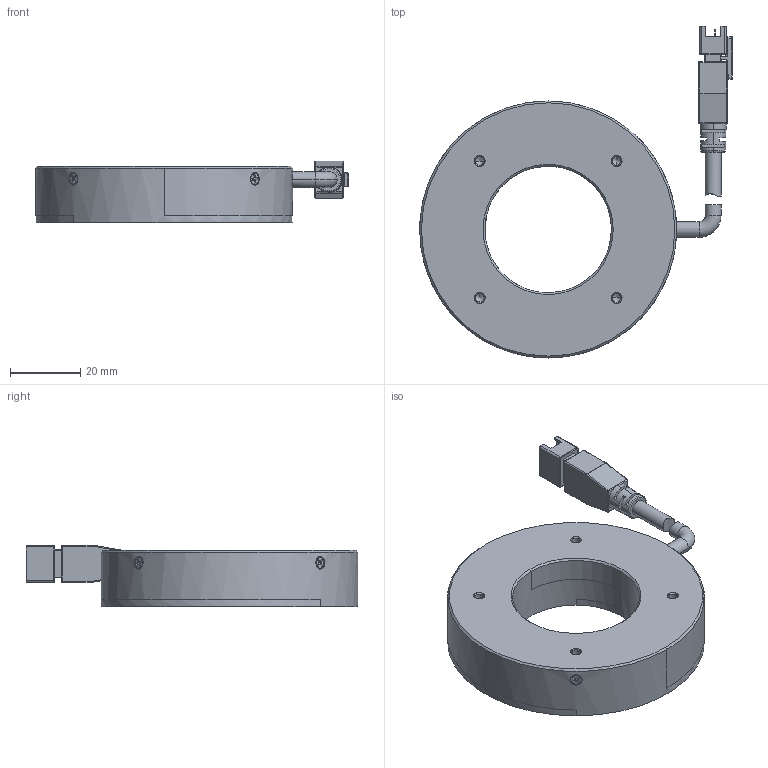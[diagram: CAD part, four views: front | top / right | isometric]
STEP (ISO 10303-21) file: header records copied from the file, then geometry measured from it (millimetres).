
FILE_DESCRIPTION((''),'2;1');
FILE_NAME('73-90','2024-01-30T10:44:18',('qiaoxuan5'),(''),'CREO PARAMETRIC BY PTC INC, 2020044','CREO PARAMETRIC BY PTC INC, 2020044','');
FILE_SCHEMA(('CONFIG_CONTROL_DESIGN'));
Length unit declared in the file: millimetre
Products named in the file (1): 73-90
Bounding box: 88.83 x 94.3 x 17.5 mm (x, y, z)
Volume: 51555.4 mm3; surface area: 18714.3 mm2
Topology: 2 solids, 38 shells, 776 faces, 1942 edges, 1205 vertices
Faces by surface type: plane 404, cylinder 249, cone 96, torus 10, sphere 8, bspline 8, extrusion 1
Entity records: 24895 total; most frequent: CARTESIAN_POINT 6386, DIRECTION 3901, ORIENTED_EDGE 3740, EDGE_CURVE 1910, AXIS2_PLACEMENT_3D 1370, VERTEX_POINT 1205, VECTOR 1161, LINE 1160
